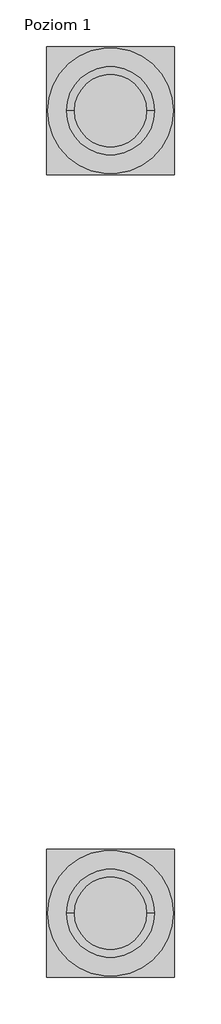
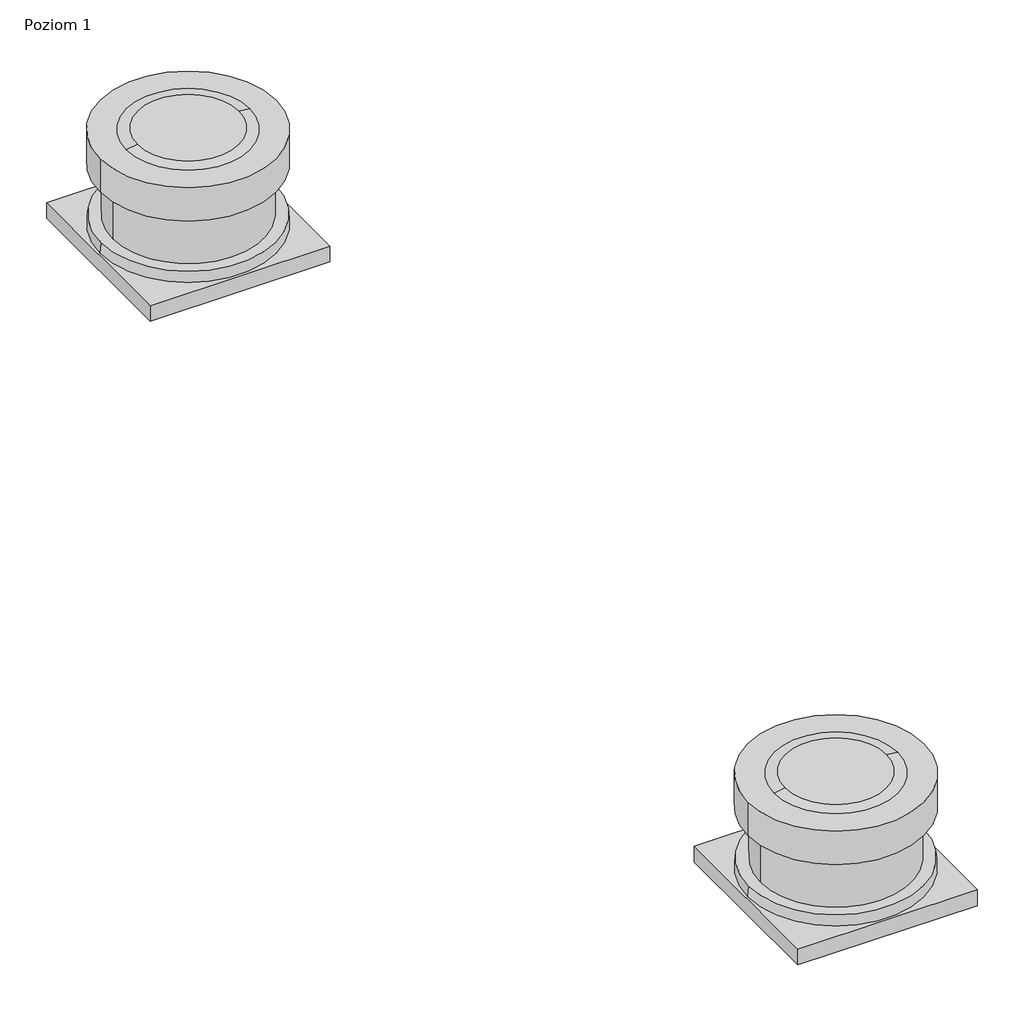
# One storey: 2 duct fittings, 2 unitary equipment elements.
"""IFC4 building model written with IfcOpenShell, lengths in millimetres."""

from ifc_helpers import new_model, si_unit, origin, place, context, project, spatial, transform, mapped, element, save
from components import duct_fitting_0662e958, unitary_equipment_ce367540

model = new_model("IFC4")

# Units and contexts
model_context = context("Model", 3, world=origin())
ifc_project = project(units=[si_unit("LENGTHUNIT", "METRE", prefix="MILLI")], contexts=[model_context])

# Site, building, storey
site = spatial("IfcSite", under=ifc_project)
building = spatial("IfcBuilding", under=site)
storey = spatial("IfcBuildingStorey", under=building, Name="Poziom 1", Elevation=0.0)

# Duct fittings
placement = place(None, origin())
duct_fitting_shape = duct_fitting_0662e958(model_context)
element("IfcDuctFitting", 1, ObjectType="VE-Współdzielone-Króciec_Przyłączeniowy-ParaForma-Harmann-DRK : Harmann", at=placement, inside=storey, context=model_context, shape_type="MappedRepresentation", body=[
    mapped(duct_fitting_shape, transform((4582.5, -1000.0, 0.0), x_axis=(1.0, 0.0, 0.0), y_axis=(0.0, 1.0, 0.0), z_axis=(0.0, 0.0, 1.0))),
])
element("IfcDuctFitting", 2, ObjectType="VE-Współdzielone-Króciec_Przyłączeniowy-ParaForma-Harmann-DRK : Harmann", at=placement, inside=storey, context=model_context, shape_type="MappedRepresentation", body=[
    mapped(duct_fitting_shape, transform((4582.5, 1000.0, 0.0), x_axis=(1.0, 0.0, 0.0), y_axis=(0.0, 1.0, 0.0), z_axis=(0.0, 0.0, 1.0))),
])

# Unitary equipment
unitary_equipment_shape = unitary_equipment_ce367540(model_context)
element("IfcUnitaryEquipment", 3, ObjectType="VE-Wentylator-ParaForma-Harmann-MONSTER_EC-Zestaw_bez_Podstawy-Wywiewny : 190/800EC", at=placement, inside=storey, context=model_context, shape_type="MappedRepresentation", body=[
    mapped(unitary_equipment_shape, transform((4582.5, 1000.0, 0.0), x_axis=(1.0, 0.0, 0.0), y_axis=(0.0, 1.0, 0.0), z_axis=(0.0, 0.0, 1.0))),
])
element("IfcUnitaryEquipment", 4, ObjectType="VE-Wentylator-ParaForma-Harmann-MONSTER_EC-Zestaw_bez_Podstawy-Wywiewny : 220/1200EC", at=placement, inside=storey, context=model_context, shape_type="MappedRepresentation", body=[
    mapped(unitary_equipment_shape, transform((4582.5, -1000.0, 0.0), x_axis=(1.0, 0.0, 0.0), y_axis=(0.0, 1.0, 0.0), z_axis=(0.0, 0.0, 1.0))),
])

save(model, "model.ifc")
